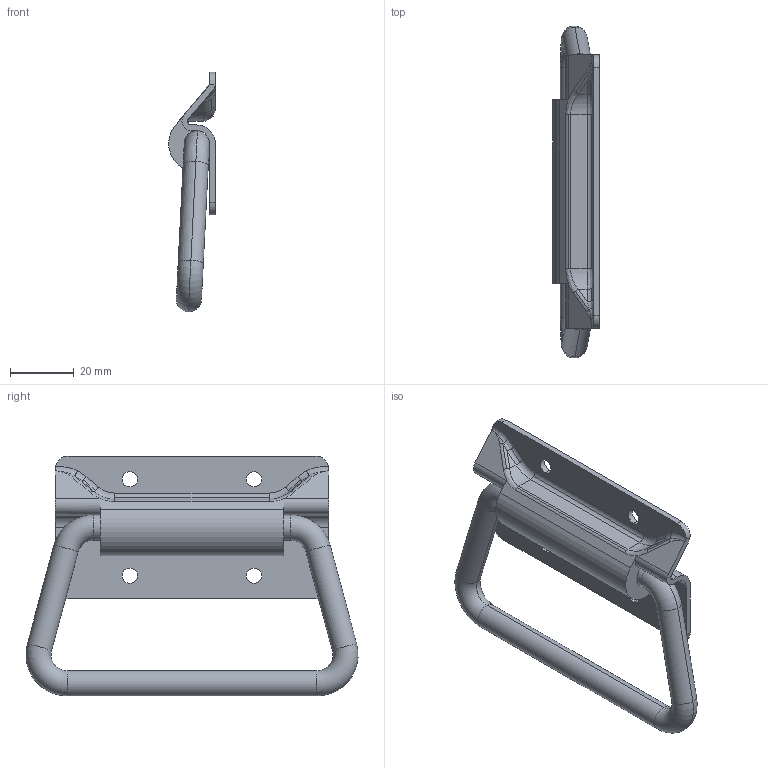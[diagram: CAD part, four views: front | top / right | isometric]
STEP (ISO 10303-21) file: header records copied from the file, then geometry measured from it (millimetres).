
FILE_DESCRIPTION((''),'2;1');
FILE_NAME('6407.stp','2018-10-23T09:14:16',(''),(''),'Mechanical Desktop 2006','Mechanical Desktop 2006',', , ');
FILE_SCHEMA(('AUTOMOTIVE_DESIGN { 1 2 10303 214 0 1 1 1 }'));
Length unit declared in the file: millimetre
Products named in the file (3): 6407; TEIL1; TEIL2
Assembly tree (2 placements, depth 2):
  6407
    TEIL1
    TEIL2
Bounding box: 14.6 x 103.93 x 75.05 mm (x, y, z)
Volume: 23234.9 mm3; surface area: 20212.6 mm2
Topology: 2 solids, 2 shells, 120 faces, 318 edges, 196 vertices
Faces by surface type: cylinder 58, plane 29, bspline 25, torus 8
Entity records: 5576 total; most frequent: CARTESIAN_POINT 2418, DIRECTION 654, ORIENTED_EDGE 636, EDGE_CURVE 318, AXIS2_PLACEMENT_3D 263, VERTEX_POINT 196, CIRCLE 143, VECTOR 128
